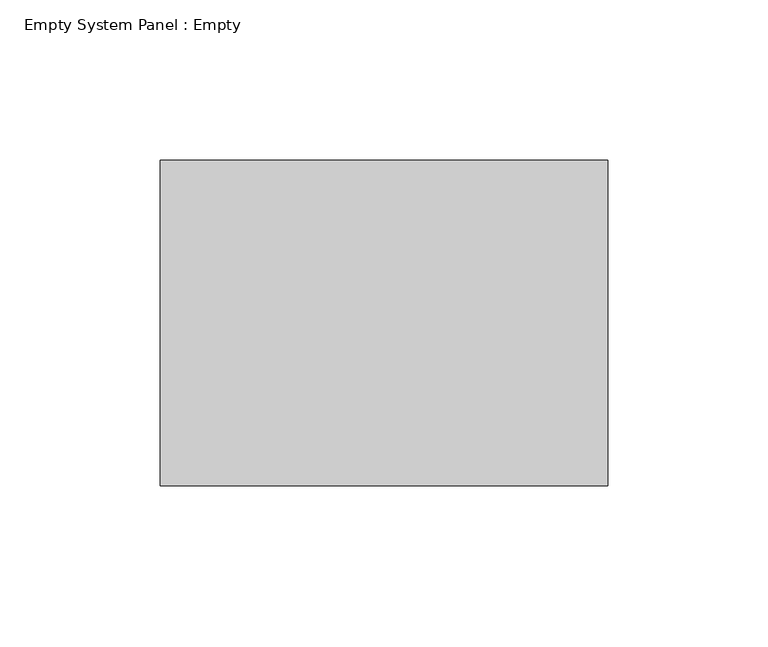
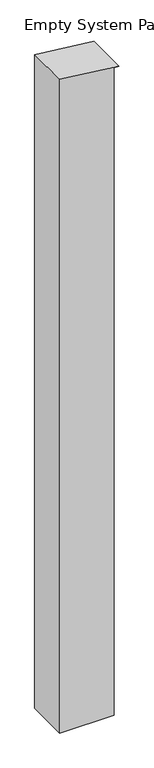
"""IFC4 building model written with IfcOpenShell, lengths in millimetres: plate geometry, Empty System Panel : Empty."""

from ifc_helpers import new_model, si_unit, frame, origin, place, context, project, spatial, polyline, outline, extrude, source, transform, mapped, element, save


def empty_system_panel_empty_bd8e9ec4(model_context):
    return source(origin(), model_context, "Body", "SweptSolid", [
        extrude(outline(polyline([(0.0, -69.85), (0.0, 57.15), (1604.9792383, 57.15), (1604.9792383, 69.85), (1620.6044283, -69.85), (0.0, -69.85)])), frame((0.0, -50.8, 0.0), z_axis=(0.0, 1.0, 0.0), x_axis=(0.0, 0.0, 1.0)), (0.0, 0.0, 1.0), 101.6),
    ])


if __name__ == "__main__":
    model = new_model("IFC4")
    model_context = context("Model", 3, world=origin())
    ifc_project = project(units=[si_unit("LENGTHUNIT", "METRE", prefix="MILLI")], contexts=[model_context])
    site = spatial("IfcSite", under=ifc_project)
    building = spatial("IfcBuilding", under=site)
    placement = place(None, origin())
    empty_system_panel_empty_shape = empty_system_panel_empty_bd8e9ec4(model_context)
    element("IfcPlate", 1, ObjectType="Empty System Panel : Empty", at=placement, inside=building, context=model_context, shape_type="MappedRepresentation", body=[
        mapped(empty_system_panel_empty_shape, transform((0.0, 0.0, 0.0), x_axis=(1.0, 0.0, 0.0), y_axis=(0.0, 1.0, 0.0), z_axis=(0.0, 0.0, 1.0))),
    ])
    save(model, "model.ifc")
